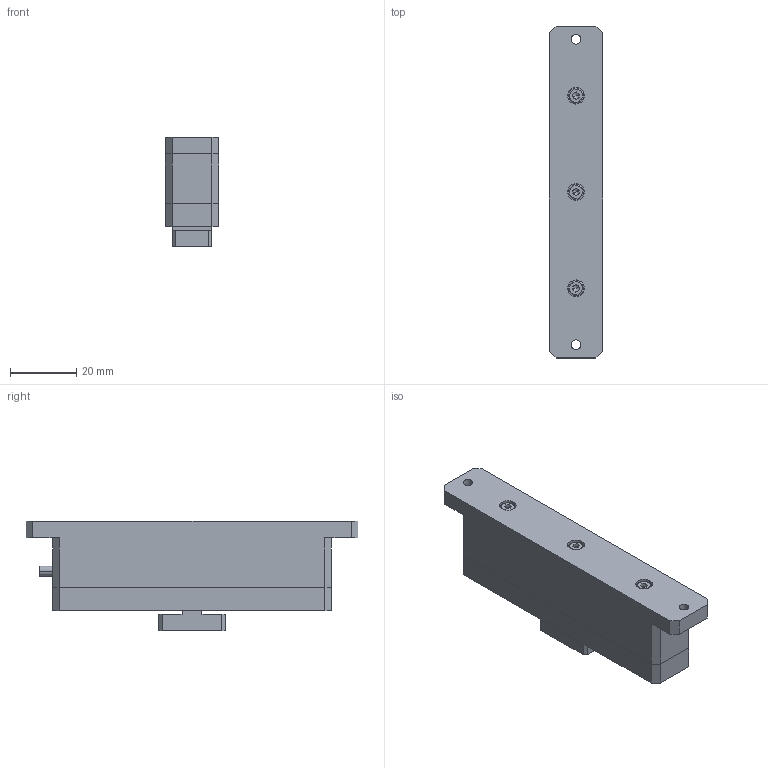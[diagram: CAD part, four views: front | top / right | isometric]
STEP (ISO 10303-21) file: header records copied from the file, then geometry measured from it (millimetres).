
FILE_DESCRIPTION (( 'STEP AP203' ), '1' );
FILE_NAME ('P78Z200儂凳蚾饜.STEP', '2024-09-09T07:44:25', ( 'daohangxitong.com' ), ( 'daohangxitong.com' ), 'SwSTEP 2.0', 'SolidWorks 2016', '' );
FILE_SCHEMA (( 'CONFIG_CONTROL_DESIGN' ));
Length unit declared in the file: millimetre
Products named in the file (1): P78Z200儂凳蚾饜
Bounding box: 16 x 100 x 33 mm (x, y, z)
Volume: 20683.3 mm3; surface area: 17266.3 mm2
Topology: 11 solids, 11 shells, 307 faces, 727 edges, 449 vertices
Faces by surface type: plane 175, cylinder 86, cone 32, torus 14
Entity records: 8814 total; most frequent: DIRECTION 1593, CARTESIAN_POINT 1485, ORIENTED_EDGE 1418, EDGE_CURVE 709, AXIS2_PLACEMENT_3D 577, VERTEX_POINT 449, LINE 439, VECTOR 439
